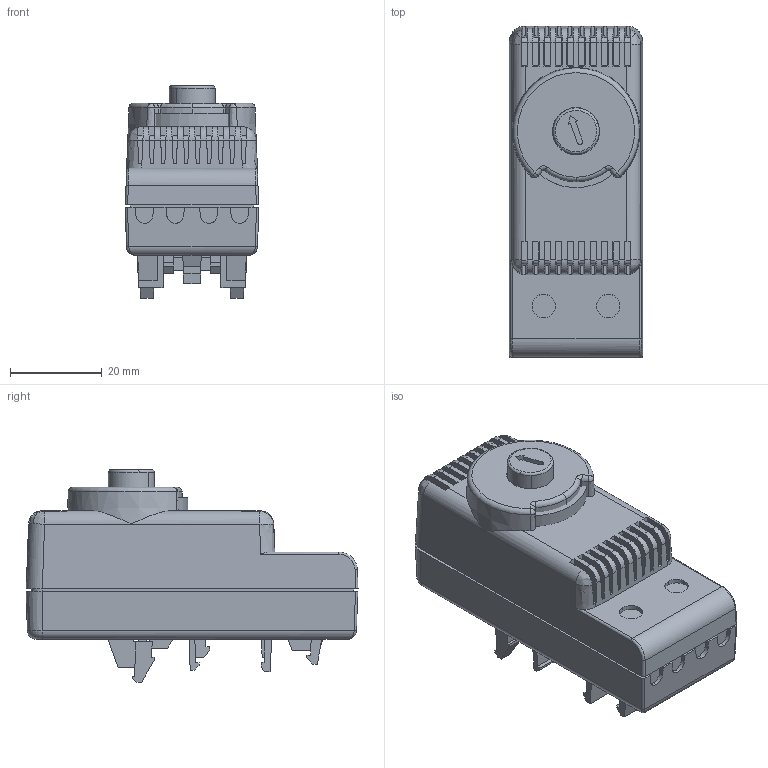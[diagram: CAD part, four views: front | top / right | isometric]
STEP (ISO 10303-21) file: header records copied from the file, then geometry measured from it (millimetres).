
FILE_DESCRIPTION (( 'STEP AP214' ), '1' );
FILE_NAME ('TRT-10A230V.STEP', '2023-10-20T09:25:45', ( '' ), ( '' ), 'SwSTEP 2.0', 'SolidWorks 2022', '' );
FILE_SCHEMA (( 'AUTOMOTIVE_DESIGN' ));
Length unit declared in the file: millimetre
Products named in the file (4): DT-04234DSI_semplificata; DT-02123DSI_semplificata; DT-02161DSI_semplificata; TRT-10A230V
Assembly tree (3 placements, depth 2):
  TRT-10A230V
    DT-04234DSI_semplificata
    DT-02161DSI_semplificata
    DT-02123DSI_semplificata
Bounding box: 29.1 x 72.25 x 46.23 mm (x, y, z)
Volume: 56666.5 mm3; surface area: 17344.3 mm2
Topology: 3 solids, 3 shells, 421 faces, 1162 edges, 757 vertices
Faces by surface type: plane 309, cylinder 77, bspline 21, cone 7, torus 7
Entity records: 14567 total; most frequent: CARTESIAN_POINT 4119, ORIENTED_EDGE 2320, DIRECTION 1883, EDGE_CURVE 1160, LINE 917, VECTOR 917, VERTEX_POINT 757, AXIS2_PLACEMENT_3D 483
